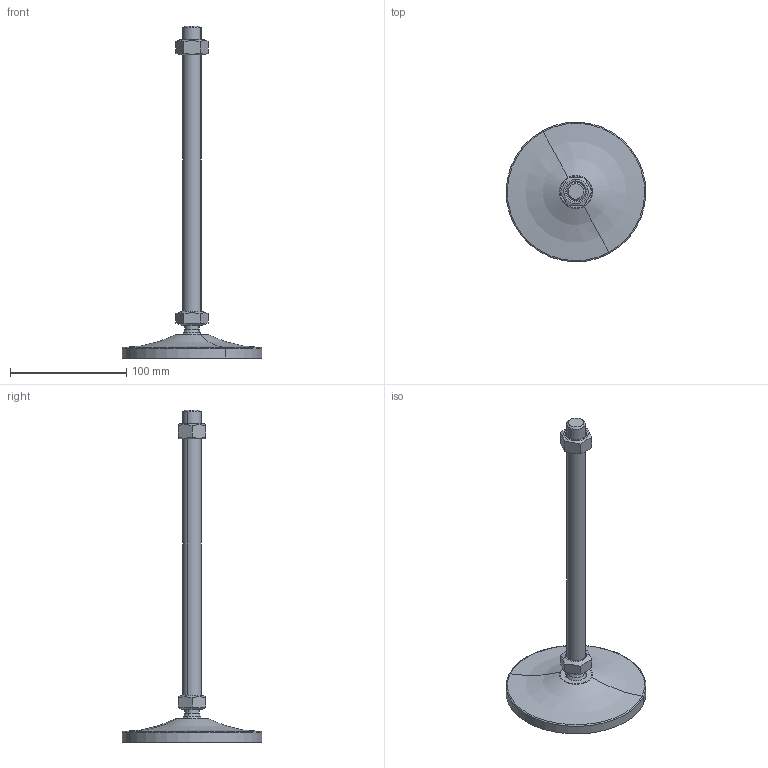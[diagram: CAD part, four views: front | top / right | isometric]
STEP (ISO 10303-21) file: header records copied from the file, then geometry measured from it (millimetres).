
FILE_DESCRIPTION(('CATIA V5 STEP Exchange'),'2;1');
FILE_NAME('C:\Users\ALI OZGUN\Desktop\alhan\saplama2\560121629.stp','2017-09-21T10:35:51+00:00',('none'),('none'),'CATIA Version 5 Release 21 GA (IN-10)','CATIA V5 STEP AP203','none');
FILE_SCHEMA(('CONFIG_CONTROL_DESIGN'));
Length unit declared in the file: millimetre
Products named in the file (1): 560121629
Bounding box: 119.97 x 119.97 x 285 mm (x, y, z)
Volume: 146268.1 mm3; surface area: 45309.1 mm2
Topology: 3 solids, 3 shells, 60 faces, 136 edges, 83 vertices
Faces by surface type: plane 20, cone 16, cylinder 14, torus 4, revolution 4, sphere 2
Entity records: 1875 total; most frequent: CARTESIAN_POINT 633, ORIENTED_EDGE 268, DIRECTION 185, EDGE_CURVE 134, AXIS2_PLACEMENT_3D 99, VERTEX_POINT 83, EDGE_LOOP 67, ADVANCED_FACE 60
